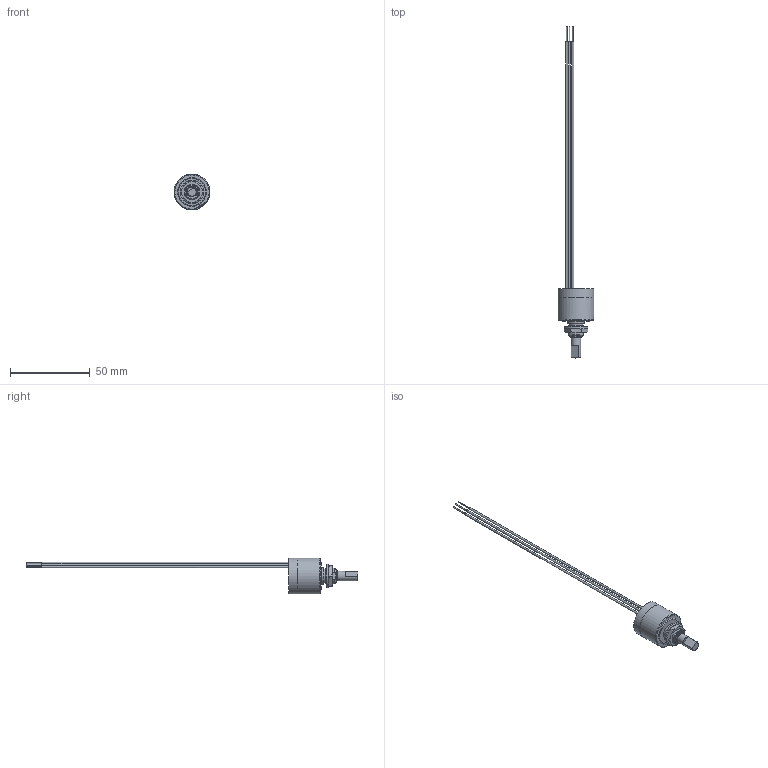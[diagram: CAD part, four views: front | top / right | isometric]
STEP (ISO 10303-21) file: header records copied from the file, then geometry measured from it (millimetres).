
FILE_DESCRIPTION (( 'STEP AP214' ), '1' );
FILE_NAME ('HSM2210M-logofrei.STEP', '2019-05-16T08:09:12', ( '' ), ( '' ), 'SwSTEP 2.0', 'SolidWorks 2017', '' );
FILE_SCHEMA (( 'AUTOMOTIVE_DESIGN' ));
Length unit declared in the file: millimetre
Products named in the file (1): HSM2210M-logofrei
Bounding box: 22.5 x 208.63 x 22.5 mm (x, y, z)
Volume: 9843.8 mm3; surface area: 5003.3 mm2
Topology: 1 solids, 1 shells, 88 faces, 199 edges, 125 vertices
Faces by surface type: plane 38, cylinder 28, cone 17, torus 3, sphere 2
Full cylindrical faces by diameter (mm): 0.6 x3, 1.2 x3, 5.3 x1, 6 x1, 8.5 x1, 9 x1, 10.32 x1, 15 x1, 20.5 x1, 22.5 x2
Entity records: 2393 total; most frequent: CARTESIAN_POINT 507, DIRECTION 405, ORIENTED_EDGE 342, AXIS2_PLACEMENT_3D 181, EDGE_CURVE 171, EDGE_LOOP 122, VERTEX_POINT 115, FACE_OUTER_BOUND 104
